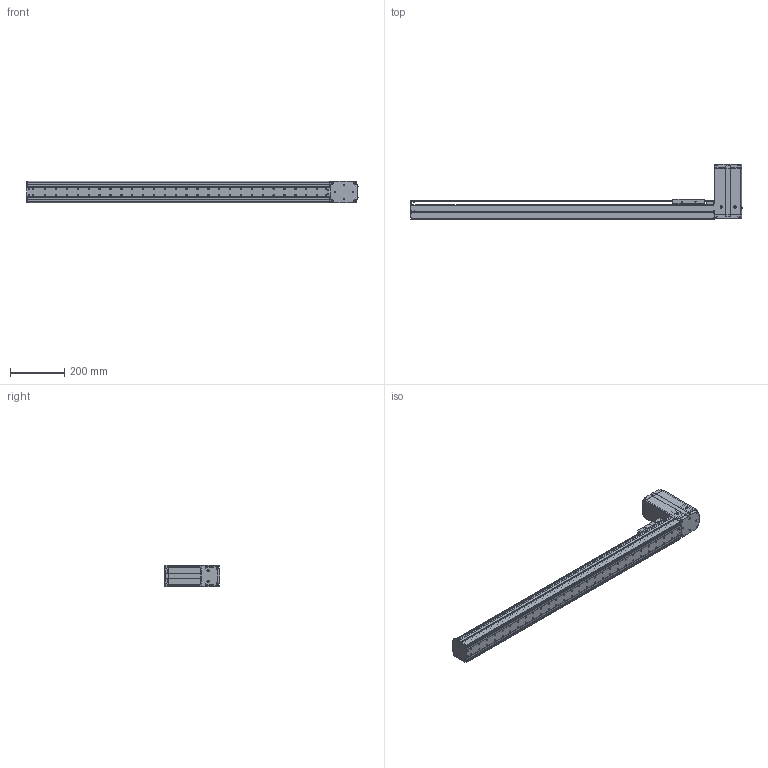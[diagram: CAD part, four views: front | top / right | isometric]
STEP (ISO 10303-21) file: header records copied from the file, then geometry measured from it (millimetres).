
FILE_DESCRIPTION((''),'2;1');
FILE_NAME('BE10_-BT-M_N-90_IGS_PRT','2017-06-18T',(' '),(''),'PRO/ENGINEER BY PARAMETRIC TECHNOLOGY CORPORATION, 2015030','PRO/ENGINEER BY PARAMETRIC TECHNOLOGY CORPORATION, 2015030','');
FILE_SCHEMA(('CONFIG_CONTROL_DESIGN'));
Products named in the file (1): BE10_-BT-M_N-90_IGS_PRT
Bounding box: 1220.8 x 204.72 x 78 mm (x, y, z)
Volume: 1511167.5 mm3; surface area: 1074270.8 mm2
Topology: 3 solids, 146 shells, 2121 faces, 5791 edges, 3817 vertices
Faces by surface type: plane 996, cylinder 954, cone 111, sphere 30, torus 27, bspline 3
Entity records: 68933 total; most frequent: CARTESIAN_POINT 14059, DIRECTION 11651, ORIENTED_EDGE 10962, EDGE_CURVE 5729, AXIS2_PLACEMENT_3D 4194, VERTEX_POINT 3817, VECTOR 3263, LINE 3263
